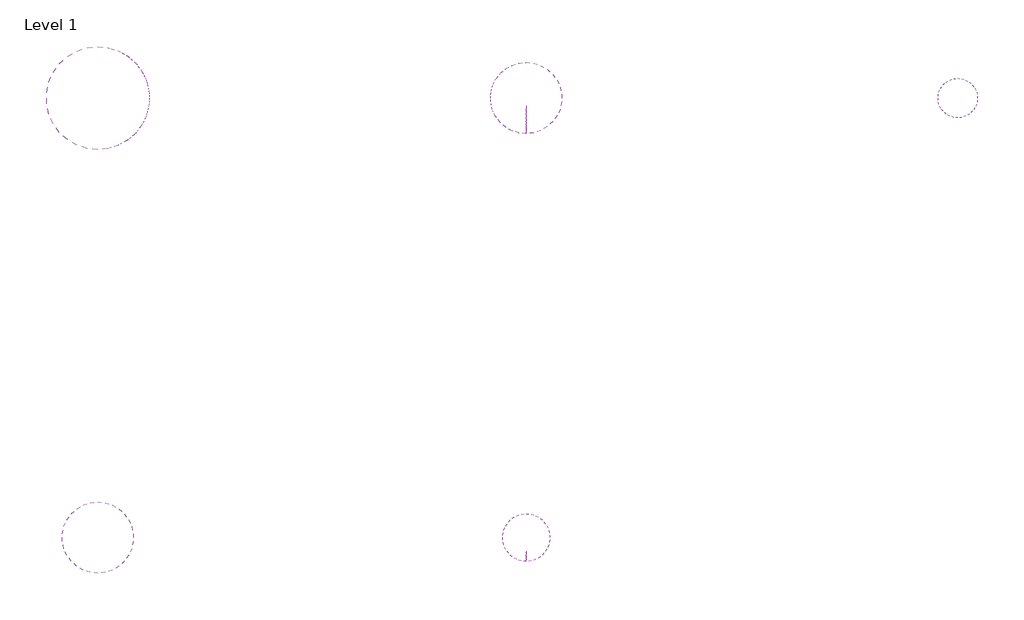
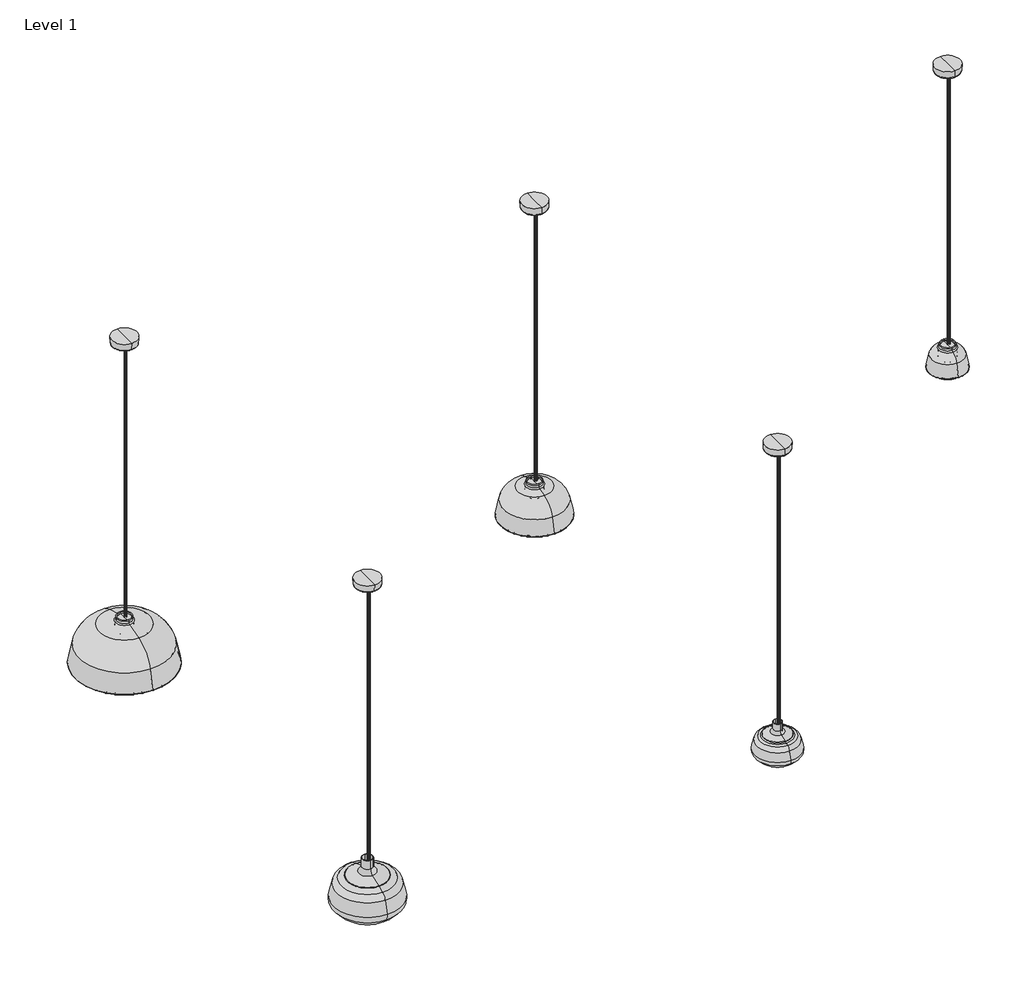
# One storey: 5 light fixtures.
"""IFC4 building model written with IfcOpenShell, lengths in millimetres."""

from ifc_helpers import new_model, si_unit, origin, place, context, project, spatial, transform, mapped, element, save
from components import light_fixture_ddd79030, light_fixture_f22c2947, light_fixture_f096236b, light_fixture_be809786, light_fixture_67fafb94

model = new_model("IFC4")

# Units and contexts
model_context = context("Model", 3, world=origin())
ifc_project = project(units=[si_unit("LENGTHUNIT", "METRE", prefix="MILLI")], contexts=[model_context])

# Site, building, storey
site = spatial("IfcSite", under=ifc_project)
building = spatial("IfcBuilding", under=site)
storey = spatial("IfcBuildingStorey", under=building, Name="Level 1", Elevation=0.0)

# Light fixtures
placement = place(None, origin())
light_fixture_shape = light_fixture_ddd79030(model_context)
element("IfcLightFixture", 1, ObjectType="RBW-Pomme-Pendant : PM-S-MT", at=placement, inside=storey, context=model_context, shape_type="MappedRepresentation", body=[
    mapped(light_fixture_shape, transform((-14251.8852047, 12179.7530577, 3600.0492187), x_axis=(0.0, -1.0, 0.0), y_axis=(-1.0, 0.0, 0.0), z_axis=(0.0, 0.0, -1.0))),
])
light_fixture_2_shape = light_fixture_f22c2947(model_context)
element("IfcLightFixture", 2, ObjectType="RBW-Pomme-Pendant : PM-L-MT", at=placement, inside=storey, context=model_context, shape_type="MappedRepresentation", body=[
    mapped(light_fixture_2_shape, transform((-16998.0032189, 12179.7530577, 3600.0492187), x_axis=(0.0, -1.0, 0.0), y_axis=(-1.0, 0.0, 0.0), z_axis=(0.0, 0.0, -1.0))),
])
light_fixture_3_shape = light_fixture_f096236b(model_context)
element("IfcLightFixture", 3, ObjectType="RBW-Dram-Pendant : DR-L-PC", at=placement, inside=storey, context=model_context, shape_type="MappedRepresentation", body=[
    mapped(light_fixture_3_shape, transform((-16998.0032189, 14999.1530577, 3600.0492187), x_axis=(0.0, -1.0, 0.0), y_axis=(-1.0, 0.0, 0.0), z_axis=(0.0, 0.0, -1.0))),
])
light_fixture_4_shape = light_fixture_be809786(model_context)
element("IfcLightFixture", 4, ObjectType="RBW-Dram-Pendant : DR-M-PC", at=placement, inside=storey, context=model_context, shape_type="MappedRepresentation", body=[
    mapped(light_fixture_4_shape, transform((-14251.8852047, 14999.1530577, 3600.0492187), x_axis=(0.0, -1.0, 0.0), y_axis=(-1.0, 0.0, 0.0), z_axis=(0.0, 0.0, -1.0))),
])
light_fixture_5_shape = light_fixture_67fafb94(model_context)
element("IfcLightFixture", 5, ObjectType="RBW-Dram-Pendant : DR-S-PC", at=placement, inside=storey, context=model_context, shape_type="MappedRepresentation", body=[
    mapped(light_fixture_5_shape, transform((-11485.9485681, 14999.1530577, 3600.0492187), x_axis=(0.0, -1.0, 0.0), y_axis=(-1.0, 0.0, 0.0), z_axis=(0.0, 0.0, -1.0))),
])

save(model, "model.ifc")
